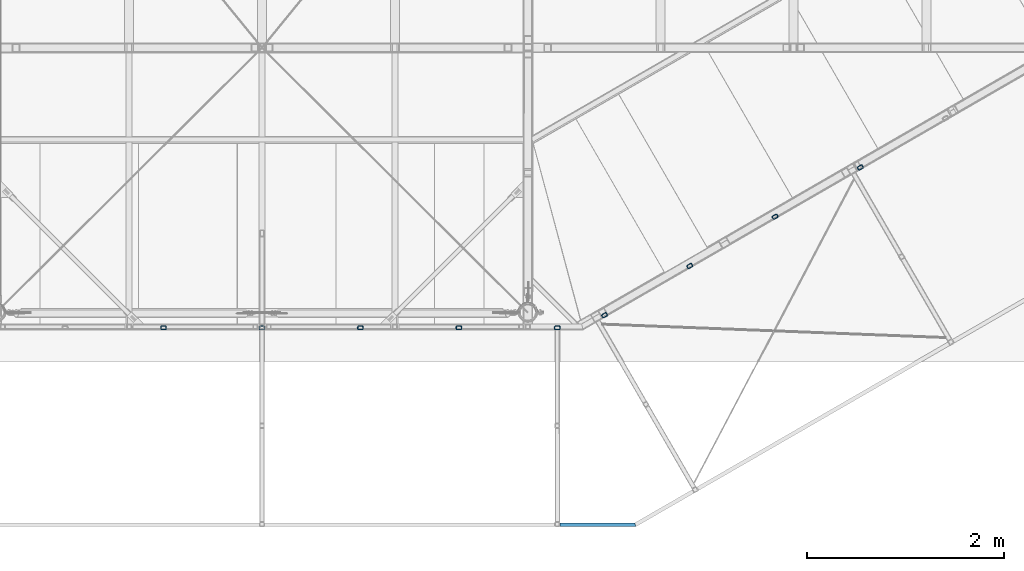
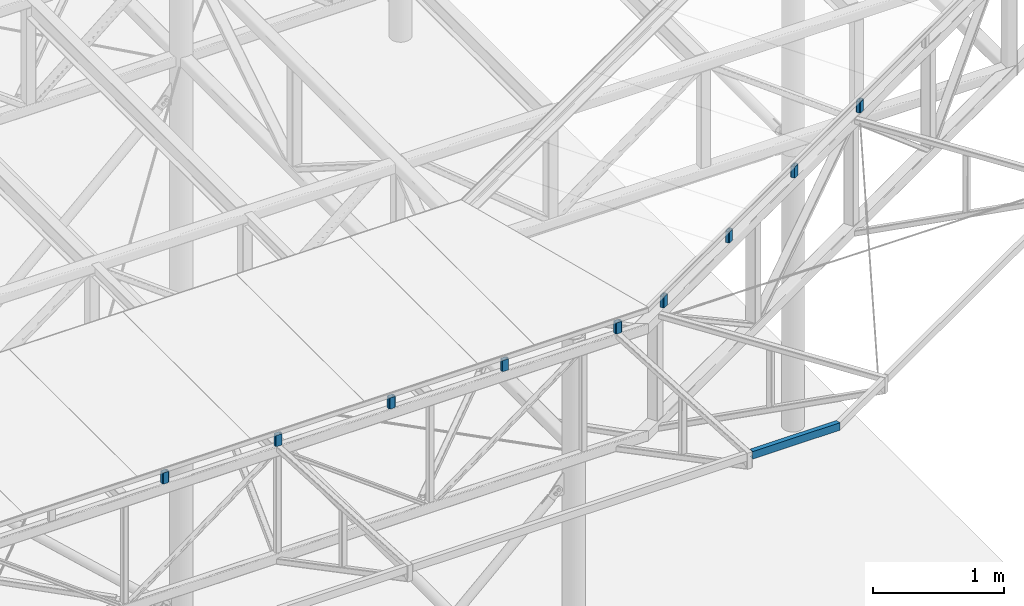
# One storey, part 23 of 132: 10 beams, 10 elements without a shape of their own.
"""IFC2X3 building model written with IfcOpenShell, lengths in millimetres."""

import ifcopenshell
import ifcopenshell.guid

model = None  # the IFC model being written
_history = None  # IfcOwnerHistory: only IFC2X3 demands one
_inside = {}  # id of a spatial element -> (the spatial element, [elements in it])
_under = {}  # id of a project, library or spatial element -> (it, [spatial elements below it])
_declared = {}  # id of a project -> (the project, [libraries it declares])
_typed = {}  # id of a type object -> (the type object, [elements of that type])
_made_of = {}  # id of a material, layer set ... -> (it, [elements and type objects made of it])


def new_model(schema):
    """Start an empty IFC model of exactly this schema.

    Asked for "IFC4X3", IfcOpenShell would pick the latest addendum, in which some entities
    have other attributes; the version numbers below select the first issue.
    IFC2X3 requires an IfcOwnerHistory on every rooted entity: one is made here for all.
    """
    global model, _history
    if schema == "IFC4X3":
        model = ifcopenshell.file(schema_version=(4, 3, 0, 0))
    else:
        model = ifcopenshell.file(schema=schema)
    _inside.clear()
    _under.clear()
    _declared.clear()
    _typed.clear()
    _made_of.clear()
    _history = None
    if model.schema == "IFC2X3":
        org = make("IfcOrganization", Name="unknown")
        user = make(
            "IfcPersonAndOrganization",
            ThePerson=make("IfcPerson", FamilyName="unknown"),
            TheOrganization=org,
        )
        app = make(
            "IfcApplication",
            ApplicationDeveloper=org,
            Version="unknown",
            ApplicationFullName="unknown",
            ApplicationIdentifier="unknown",
        )
        _history = make(
            "IfcOwnerHistory",
            OwningUser=user,
            OwningApplication=app,
            ChangeAction="ADDED",
            CreationDate=0,
        )
    return model


def make(cls, **values):
    """One entity of the class cls with the attributes given. An attribute that is None is left unset."""
    return model.create_entity(
        cls, **{name: value for name, value in values.items() if value is not None}
    )


def rooted(cls, **values):
    """An entity with a GlobalId (a new one), such as an element, a storey or a relation."""
    return make(cls, GlobalId=ifcopenshell.guid.new(), OwnerHistory=_history, **values)


def si_unit(unit_type, name, prefix=None):
    """IfcSIUnit, for example si_unit("LENGTHUNIT", "METRE", prefix="MILLI")."""
    return make("IfcSIUnit", UnitType=unit_type, Prefix=prefix, Name=name)


def assignment(units):
    """IfcUnitAssignment: the units of a project."""
    return None if units is None else make("IfcUnitAssignment", Units=units)


def point(xyz):
    """IfcCartesianPoint."""
    return None if xyz is None else make("IfcCartesianPoint", Coordinates=xyz)


def direction(xyz):
    """IfcDirection."""
    return None if xyz is None else make("IfcDirection", DirectionRatios=xyz)


def frame(location, z_axis=None, x_axis=None):
    """IfcAxis2Placement3D, a coordinate frame: its origin and axes. An axis left out is left unset."""
    return make(
        "IfcAxis2Placement3D",
        Location=point(location),
        Axis=direction(z_axis),
        RefDirection=direction(x_axis),
    )


def frame_2d(location, x_axis=None):
    """IfcAxis2Placement2D, a coordinate frame in the plane: its origin and x axis."""
    return make(
        "IfcAxis2Placement2D", Location=point(location), RefDirection=direction(x_axis)
    )


def origin_with_axes():
    """The frame at (0, 0, 0) with the z axis (0, 0, 1) and the x axis (1, 0, 0) written out."""
    return frame((0.0, 0.0, 0.0), z_axis=(0.0, 0.0, 1.0), x_axis=(1.0, 0.0, 0.0))


def origin_2d_with_axis():
    """The frame at (0, 0) in the plane with the x axis (1, 0) written out."""
    return frame_2d((0.0, 0.0), x_axis=(1.0, 0.0))


def place(relative_to, where):
    """IfcLocalPlacement: puts the frame where relative to a parent placement (None: the world)."""
    return make(
        "IfcLocalPlacement", PlacementRelTo=relative_to, RelativePlacement=where
    )


def context(
    kind, dimensions, precision=None, world=None, true_north=None, identifier=None
):
    """IfcGeometricRepresentationContext, for example the 3D "Model" context."""
    return make(
        "IfcGeometricRepresentationContext",
        ContextIdentifier=identifier,
        ContextType=kind,
        CoordinateSpaceDimension=dimensions,
        Precision=precision,
        WorldCoordinateSystem=world,
        TrueNorth=true_north,
    )


def subcontext(parent, identifier, kind, view, scale=None):
    """IfcGeometricRepresentationSubContext, for example "Body" below "Model"."""
    return make(
        "IfcGeometricRepresentationSubContext",
        ContextIdentifier=identifier,
        ContextType=kind,
        ParentContext=parent,
        TargetScale=scale,
        TargetView=view,
    )


def project(units=None, contexts=None):
    """IfcProject with its units and contexts."""
    return rooted(
        "IfcProject",
        Name="project",
        RepresentationContexts=contexts,
        UnitsInContext=assignment(units),
    )


def spatial(cls, under=None, at=None, **own):
    """A site, building, storey or space (cls), placed at a placement, below another one or the project."""
    s = rooted(cls, ObjectPlacement=at, **own)
    if under is not None:
        _under.setdefault(under.id(), (under, []))[1].append(s)
    return s


def profile(cls, at=None, kind="AREA", **sizes):
    """A parametric profile (cls). Its sizes go by their IFC names, for example OverallWidth=200.0."""
    return make(cls, ProfileType=kind, Position=at, **sizes)


def hollow_rectangle(**sizes):
    """IfcRectangleHollowProfileDef."""
    return profile("IfcRectangleHollowProfileDef", **sizes)


def u_section(**sizes):
    """IfcUShapeProfileDef."""
    return profile("IfcUShapeProfileDef", **sizes)


def extrude(swept, where, along, depth):
    """IfcExtrudedAreaSolid: the profile swept, set in the frame where, extruded along a direction by depth."""
    return make(
        "IfcExtrudedAreaSolid",
        SweptArea=swept,
        Position=where,
        ExtrudedDirection=direction(along),
        Depth=depth,
    )


def clip(a, b, op="DIFFERENCE"):
    """IfcBooleanClippingResult: the solid a cut by the half space b."""
    return make(
        "IfcBooleanClippingResult", Operator=op, FirstOperand=a, SecondOperand=b
    )


def halfspace(plane, agree):
    """IfcHalfSpaceSolid: all space on one side of the plane z = 0 of the frame plane."""
    return make(
        "IfcHalfSpaceSolid",
        BaseSurface=make("IfcPlane", Position=plane),
        AgreementFlag=agree,
    )


def shape(context_of_items, identifier, shape_type, items):
    """IfcShapeRepresentation: the items that make up one representation, for example the "Body"."""
    return make(
        "IfcShapeRepresentation",
        ContextOfItems=context_of_items,
        RepresentationIdentifier=identifier,
        RepresentationType=shape_type,
        Items=items,
    )


def material(Name=None, Category=None):
    """IfcMaterial."""
    return make("IfcMaterial", Name=Name, Category=Category)


def made_of(thing, what):
    """Note that an element or type object is made of a material, layer set ...; save() writes the relation."""
    if what is not None:
        _made_of.setdefault(what.id(), (what, []))[1].append(thing)
    return thing


def type_object(cls, material=None, **own):
    """A type object (cls), such as IfcWallType, which elements share."""
    return made_of(rooted(cls, **own), material)


def element(
    cls,
    number,
    at=None,
    inside=None,
    cuts=None,
    type_object=None,
    material=None,
    context=None,
    identifier="Body",
    shape_type=None,
    held_by="IfcProductDefinitionShape",
    body=None,
    shapes=None,
    **own,
):
    """One element of the class cls, such as IfcWall. Its Tag is "e" and its number.

    at: its placement. inside: the storey or other place that contains it. cuts: it is an
    opening in that element (IfcRelVoidsElement). A single representation is given by context,
    identifier, shape_type and body (its items); several are given by shapes. held_by: the class
    of the entity that holds the representations. save() writes the other relations.
    """
    e = rooted(cls, Tag="e%d" % number, ObjectPlacement=at, **own)
    if body is not None:
        shapes = [shape(context, identifier, shape_type, body)]
    if shapes is not None:
        e.Representation = make(held_by, Representations=shapes)
    if inside is not None:
        _inside.setdefault(inside.id(), (inside, []))[1].append(e)
    if cuts is not None:
        rooted(
            "IfcRelVoidsElement", RelatingBuildingElement=cuts, RelatedOpeningElement=e
        )
    if type_object is not None:
        _typed.setdefault(type_object.id(), (type_object, []))[1].append(e)
    return made_of(e, material)


def aggregate(whole, parts):
    """IfcRelAggregates: a whole, such as a stair, and the parts it consists of."""
    return rooted("IfcRelAggregates", RelatingObject=whole, RelatedObjects=parts)


def save(model, path):
    """Write the relations noted so far, then the file.

    IfcRelAggregates (storeys below a building ...), IfcRelContainedInSpatialStructure (elements
    in a storey), IfcRelDefinesByType, IfcRelAssociatesMaterial and IfcRelDeclares: one each for
    every whole, place, type object, material and project.
    """
    for whole, parts in _under.values():
        aggregate(whole, parts)
    for where, things in _inside.values():
        rooted(
            "IfcRelContainedInSpatialStructure",
            RelatedElements=things,
            RelatingStructure=where,
        )
    for kind, things in _typed.values():
        rooted("IfcRelDefinesByType", RelatedObjects=things, RelatingType=kind)
    for what, things in _made_of.values():
        rooted("IfcRelAssociatesMaterial", RelatedObjects=things, RelatingMaterial=what)
    for by, libraries in _declared.values():
        rooted("IfcRelDeclares", RelatingContext=by, RelatedDefinitions=libraries)
    model.write(path)


model = new_model("IFC2X3")

# Units and contexts
model_context = context("Model", 3, precision=1e-05, world=origin_with_axes())
body_context = subcontext(model_context, "Body", "Model", "MODEL_VIEW")
ifc_project = project(units=[si_unit("LENGTHUNIT", "METRE", prefix="MILLI"), si_unit("AREAUNIT", "SQUARE_METRE"), si_unit("VOLUMEUNIT", "CUBIC_METRE"), si_unit("MASSUNIT", "GRAM", prefix="KILO"), si_unit("TIMEUNIT", "SECOND"), si_unit("PLANEANGLEUNIT", "RADIAN"), si_unit("SOLIDANGLEUNIT", "STERADIAN"), si_unit("THERMODYNAMICTEMPERATUREUNIT", "DEGREE_CELSIUS"), si_unit("LUMINOUSINTENSITYUNIT", "LUMEN")], contexts=[model_context])

# Site, building, storey
site_placement = place(None, origin_with_axes())
site = spatial("IfcSite", under=ifc_project, at=site_placement, Name="Budowa", CompositionType="ELEMENT")
building_placement = place(site_placement, origin_with_axes())
building = spatial("IfcBuilding", under=site, at=building_placement, Name="Undefined", CompositionType="ELEMENT")
storey_placement = place(building_placement, origin_with_axes())
storey = spatial("IfcBuildingStorey", under=building, at=storey_placement, Name="Undefined", CompositionType="ELEMENT", Elevation=0.0)

# Assembly, beam
assembly_1_placement = place(storey_placement, origin_with_axes())
assembly_1 = element("IfcElementAssembly", 1, at=assembly_1_placement, inside=storey, Name="Steel Assembly", AssemblyPlace="NOTDEFINED", PredefinedType="RIGID_FRAME")
ifc_material = material(Name="STEEL/S235")
beam_type_1 = type_object("IfcBeamType", Name="RHS60*40*6", PredefinedType="NOTDEFINED")
beam_1_placement = place(assembly_1_placement, frame((15604.2319653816, -26.4157937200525, 13984.0000000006), z_axis=(-0.866042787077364, -0.499969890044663, 0.0), x_axis=(0.0, 0.0, -1.0)))
beam_1 = element("IfcBeam", 2, at=beam_1_placement, type_object=beam_type_1, material=ifc_material, Name="BEAM", ObjectType="RHS60*40*6", context=body_context, shape_type="SweptSolid", body=[
    extrude(hollow_rectangle(XDim=40.0, YDim=60.0, WallThickness=6.0, InnerFilletRadius=6.0, OuterFilletRadius=12.0, at=origin_2d_with_axis()), frame((103.988921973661, 0.0, 0.0), z_axis=(-1.0, 0.0, 0.0), x_axis=(0.0, -1.0, 0.0)), (0.0, 0.0, 1.0), 103.99),
])
aggregate(assembly_1, [beam_1])

assembly_2_placement = place(storey_placement, origin_with_axes())
assembly_2 = element("IfcElementAssembly", 3, at=assembly_2_placement, inside=storey, Name="Steel Assembly", AssemblyPlace="NOTDEFINED", PredefinedType="RIGID_FRAME")
beam_2_placement = place(assembly_2_placement, frame((16470.2747524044, 473.554096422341, 13984.0000000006), z_axis=(-0.866042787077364, -0.499969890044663, 0.0), x_axis=(0.0, 0.0, -1.0)))
beam_2 = element("IfcBeam", 4, at=beam_2_placement, type_object=beam_type_1, material=ifc_material, Name="BEAM", ObjectType="RHS60*40*6", context=body_context, shape_type="SweptSolid", body=[
    extrude(hollow_rectangle(XDim=40.0, YDim=60.0, WallThickness=6.0, InnerFilletRadius=6.0, OuterFilletRadius=12.0, at=origin_2d_with_axis()), frame((103.988921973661, 0.0, 0.0), z_axis=(-1.0, 0.0, 0.0), x_axis=(0.0, -1.0, 0.0)), (0.0, 0.0, 1.0), 103.99),
])
aggregate(assembly_2, [beam_2])

assembly_3_placement = place(storey_placement, origin_with_axes())
assembly_3 = element("IfcElementAssembly", 5, at=assembly_3_placement, inside=storey, Name="Steel Assembly", AssemblyPlace="NOTDEFINED", PredefinedType="RIGID_FRAME")
beam_3_placement = place(assembly_3_placement, frame((17336.3175394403, 973.523986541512, 13984.0000000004), z_axis=(-0.866042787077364, -0.499969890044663, 0.0), x_axis=(0.0, 0.0, -1.0)))
beam_3 = element("IfcBeam", 6, at=beam_3_placement, type_object=beam_type_1, material=ifc_material, Name="BEAM", ObjectType="RHS60*40*6", context=body_context, shape_type="SweptSolid", body=[
    extrude(hollow_rectangle(XDim=40.0, YDim=60.0, WallThickness=6.0, InnerFilletRadius=6.0, OuterFilletRadius=12.0, at=origin_2d_with_axis()), frame((103.988921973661, 0.0, 0.0), z_axis=(-1.0, 0.0, 0.0), x_axis=(0.0, -1.0, 0.0)), (0.0, 0.0, 1.0), 103.99),
])
aggregate(assembly_3, [beam_3])

assembly_4_placement = place(storey_placement, origin_with_axes())
assembly_4 = element("IfcElementAssembly", 7, at=assembly_4_placement, inside=storey, Name="Steel Assembly", AssemblyPlace="NOTDEFINED", PredefinedType="RIGID_FRAME")
beam_4_placement = place(assembly_4_placement, frame((18202.3603264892, 1473.49387663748, 13984.0000000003), z_axis=(-0.866042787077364, -0.499969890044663, 0.0), x_axis=(0.0, 0.0, -1.0)))
beam_4 = element("IfcBeam", 8, at=beam_4_placement, type_object=beam_type_1, material=ifc_material, Name="BEAM", ObjectType="RHS60*40*6", context=body_context, shape_type="SweptSolid", body=[
    extrude(hollow_rectangle(XDim=40.0, YDim=60.0, WallThickness=6.0, InnerFilletRadius=6.0, OuterFilletRadius=12.0, at=origin_2d_with_axis()), frame((103.988921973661, 0.0, 0.0), z_axis=(-1.0, 0.0, 0.0), x_axis=(0.0, -1.0, 0.0)), (0.0, 0.0, 1.0), 103.99),
])
aggregate(assembly_4, [beam_4])

assembly_5_placement = place(storey_placement, origin_with_axes())
assembly_5 = element("IfcElementAssembly", 9, at=assembly_5_placement, inside=storey, Name="Steel Assembly", AssemblyPlace="NOTDEFINED", PredefinedType="RIGID_FRAME")
beam_5_placement = place(assembly_5_placement, frame((15124.8382365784, -154.90000035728, 13984.0000000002), z_axis=(1.0, 0.0, 0.0), x_axis=(0.0, 0.0, -1.0)))
beam_5 = element("IfcBeam", 10, at=beam_5_placement, type_object=beam_type_1, material=ifc_material, Name="BEAM", ObjectType="RHS60*40*6", context=body_context, shape_type="SweptSolid", body=[
    extrude(hollow_rectangle(XDim=40.0, YDim=60.0, WallThickness=6.0, InnerFilletRadius=6.0, OuterFilletRadius=12.0, at=origin_2d_with_axis()), frame((103.937991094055, 0.0, 0.0), z_axis=(-1.0, 0.0, 0.0), x_axis=(0.0, -1.0, 0.0)), (0.0, 0.0, 1.0), 103.94),
])
aggregate(assembly_5, [beam_5])

assembly_6_placement = place(storey_placement, origin_with_axes())
assembly_6 = element("IfcElementAssembly", 11, at=assembly_6_placement, inside=storey, Name="Steel Assembly", AssemblyPlace="NOTDEFINED", PredefinedType="RIGID_FRAME")
beam_6_placement = place(assembly_6_placement, frame((14124.8382365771, -154.90000021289, 13984.0000000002), z_axis=(1.0, 0.0, 0.0), x_axis=(0.0, 0.0, -1.0)))
beam_6 = element("IfcBeam", 12, at=beam_6_placement, type_object=beam_type_1, material=ifc_material, Name="BEAM", ObjectType="RHS60*40*6", context=body_context, shape_type="SweptSolid", body=[
    extrude(hollow_rectangle(XDim=40.0, YDim=60.0, WallThickness=6.0, InnerFilletRadius=6.0, OuterFilletRadius=12.0, at=origin_2d_with_axis()), frame((103.937991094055, 0.0, 0.0), z_axis=(-1.0, 0.0, 0.0), x_axis=(0.0, -1.0, 0.0)), (0.0, 0.0, 1.0), 103.94),
])
aggregate(assembly_6, [beam_6])

assembly_7_placement = place(storey_placement, origin_with_axes())
assembly_7 = element("IfcElementAssembly", 13, at=assembly_7_placement, inside=storey, Name="Steel Assembly", AssemblyPlace="NOTDEFINED", PredefinedType="RIGID_FRAME")
beam_7_placement = place(assembly_7_placement, frame((13124.8382365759, -154.900000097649, 13984.0000000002), z_axis=(1.0, 0.0, 0.0), x_axis=(0.0, 0.0, -1.0)))
beam_7 = element("IfcBeam", 14, at=beam_7_placement, type_object=beam_type_1, material=ifc_material, Name="BEAM", ObjectType="RHS60*40*6", context=body_context, shape_type="SweptSolid", body=[
    extrude(hollow_rectangle(XDim=40.0, YDim=60.0, WallThickness=6.0, InnerFilletRadius=6.0, OuterFilletRadius=12.0, at=origin_2d_with_axis()), frame((103.937991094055, 0.0, 0.0), z_axis=(-1.0, 0.0, 0.0), x_axis=(0.0, -1.0, 0.0)), (0.0, 0.0, 1.0), 103.94),
])
aggregate(assembly_7, [beam_7])

assembly_8_placement = place(storey_placement, origin_with_axes())
assembly_8 = element("IfcElementAssembly", 15, at=assembly_8_placement, inside=storey, Name="Steel Assembly", AssemblyPlace="NOTDEFINED", PredefinedType="RIGID_FRAME")
beam_8_placement = place(assembly_8_placement, frame((11124.8382365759, -154.900000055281, 13984.0000000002), z_axis=(1.0, 0.0, 0.0), x_axis=(0.0, 0.0, -1.0)))
beam_8 = element("IfcBeam", 16, at=beam_8_placement, type_object=beam_type_1, material=ifc_material, Name="BEAM", ObjectType="RHS60*40*6", context=body_context, shape_type="SweptSolid", body=[
    extrude(hollow_rectangle(XDim=40.0, YDim=60.0, WallThickness=6.0, InnerFilletRadius=6.0, OuterFilletRadius=12.0, at=origin_2d_with_axis()), frame((103.937991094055, 0.0, 0.0), z_axis=(-1.0, 0.0, 0.0), x_axis=(0.0, -1.0, 0.0)), (0.0, 0.0, 1.0), 103.94),
])
aggregate(assembly_8, [beam_8])

assembly_9_placement = place(storey_placement, origin_with_axes())
assembly_9 = element("IfcElementAssembly", 17, at=assembly_9_placement, inside=storey, Name="Steel Assembly", AssemblyPlace="NOTDEFINED", PredefinedType="RIGID_FRAME")
beam_9_placement = place(assembly_9_placement, frame((12124.8382365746, -154.900000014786, 13984.0000000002), z_axis=(1.0, 0.0, 0.0), x_axis=(0.0, 0.0, -1.0)))
beam_9 = element("IfcBeam", 18, at=beam_9_placement, type_object=beam_type_1, material=ifc_material, Name="BEAM", ObjectType="RHS60*40*6", context=body_context, shape_type="SweptSolid", body=[
    extrude(hollow_rectangle(XDim=40.0, YDim=60.0, WallThickness=6.0, InnerFilletRadius=6.0, OuterFilletRadius=12.0, at=origin_2d_with_axis()), frame((103.937991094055, 0.0, 0.0), z_axis=(-1.0, 0.0, 0.0), x_axis=(0.0, -1.0, 0.0)), (0.0, 0.0, 1.0), 103.94),
])
aggregate(assembly_9, [beam_9])

assembly_10_placement = place(storey_placement, origin_with_axes())
assembly_10 = element("IfcElementAssembly", 19, at=assembly_10_placement, inside=storey, Name="Steel Assembly", AssemblyPlace="NOTDEFINED", PredefinedType="RIGID_FRAME")
beam_type_2 = type_object("IfcBeamType", Name="C70*40*4", PredefinedType="NOTDEFINED")
beam_10_placement = place(assembly_10_placement, frame((15149.9999999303, -2155.00038146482, 13945.0050191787), z_axis=(0.0, 0.0, -1.0), x_axis=(1.0, 0.0, 0.0)))
beam_10 = element("IfcBeam", 20, at=beam_10_placement, type_object=beam_type_2, material=ifc_material, Name="BEAM", ObjectType="C70*40*4", context=body_context, shape_type="Clipping", body=[
    clip(extrude(u_section(Depth=70.0, FlangeWidth=40.0, WebThickness=4.0, FlangeThickness=4.0, FilletRadius=6.0, at=origin_2d_with_axis()), frame((772.941602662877, 0.0, 0.0), z_axis=(-1.0, 0.0, 0.0), x_axis=(0.0, -1.0, 0.0)), (0.0, 0.0, 1.0), 772.94), halfspace(frame((762.170794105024, -19.9999999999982, -2.95185600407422e-08), z_axis=(-0.96593032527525, 0.258802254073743, 0.0), x_axis=(0.0, 0.0, -1.0)), True)),
])
aggregate(assembly_10, [beam_10])

save(model, "model.ifc")
